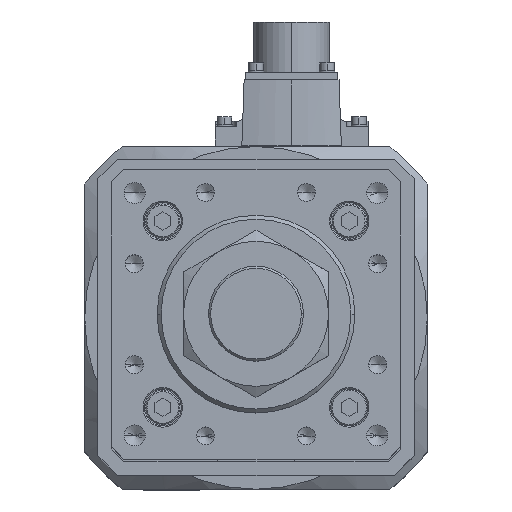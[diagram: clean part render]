
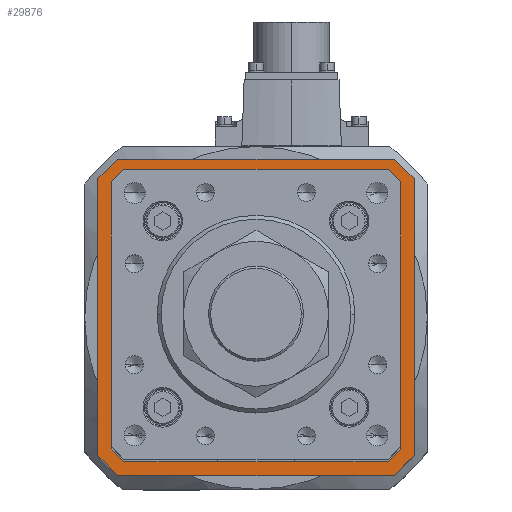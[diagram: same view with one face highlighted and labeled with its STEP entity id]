
A CAD part, top view. The second image highlights one B-rep face of the part: STEP entity #29876.
In plain terms, the highlighted planar face has unit normal (0, 0, 1).
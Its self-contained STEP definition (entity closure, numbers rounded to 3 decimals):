
#402 = LINE ( 'NONE', #24671, #37199 ) ;
#432 = CARTESIAN_POINT ( 'NONE',  ( 49.446, -53.646, -119. ) ) ;
#752 = EDGE_CURVE ( 'NONE', #24025, #31141, #7397, .T. ) ;
#809 = DIRECTION ( 'NONE',  ( -0.707, -0.707, 0. ) ) ;
#1158 = VECTOR ( 'NONE', #18522, 1000. ) ;
#1895 = CARTESIAN_POINT ( 'NONE',  ( 52.5, 60., -119. ) ) ;
#2481 = EDGE_CURVE ( 'NONE', #31141, #25167, #32281, .T. ) ;
#2551 = CARTESIAN_POINT ( 'NONE',  ( 49.593, 53.5, -119. ) ) ;
#2639 = EDGE_CURVE ( 'NONE', #33589, #20223, #8669, .T. ) ;
#3249 = EDGE_CURVE ( 'NONE', #13346, #20958, #15908, .T. ) ;
#3443 = EDGE_CURVE ( 'NONE', #20839, #8098, #12214, .T. ) ;
#3747 = CARTESIAN_POINT ( 'NONE',  ( -52.5, 60., -119. ) ) ;
#3892 = CARTESIAN_POINT ( 'NONE',  ( 53.5, 49.593, -119. ) ) ;
#4085 = ORIENTED_EDGE ( 'NONE', *, *, #21136, .F. ) ;
#4283 = EDGE_CURVE ( 'NONE', #36680, #20839, #402, .T. ) ;
#4780 = VECTOR ( 'NONE', #12912, 1000. ) ;
#4791 = ORIENTED_EDGE ( 'NONE', *, *, #2481, .F. ) ;
#5177 = CARTESIAN_POINT ( 'NONE',  ( 52.5, -60., -119. ) ) ;
#5240 = PLANE ( 'NONE',  #31977 ) ;
#5320 = CARTESIAN_POINT ( 'NONE',  ( 60., 52.5, -119. ) ) ;
#5611 = CARTESIAN_POINT ( 'NONE',  ( -52.5, 60., -119. ) ) ;
#6228 = CARTESIAN_POINT ( 'NONE',  ( 60., -52.5, -119. ) ) ;
#6403 = CARTESIAN_POINT ( 'NONE',  ( -53.646, -49.446, -119. ) ) ;
#6695 = ORIENTED_EDGE ( 'NONE', *, *, #752, .F. ) ;
#6730 = ORIENTED_EDGE ( 'NONE', *, *, #8951, .F. ) ;
#6912 = DIRECTION ( 'NONE',  ( -0.707, 0.707, 0. ) ) ;
#7117 = DIRECTION ( 'NONE',  ( 1., 0., 0. ) ) ;
#7397 = LINE ( 'NONE', #1895, #18828 ) ;
#7402 = LINE ( 'NONE', #3747, #12427 ) ;
#7476 = CARTESIAN_POINT ( 'NONE',  ( 52.5, 60., -119. ) ) ;
#7729 = CARTESIAN_POINT ( 'NONE',  ( -52.5, -60., -119. ) ) ;
#7738 = VECTOR ( 'NONE', #21157, 1000. ) ;
#7820 = CARTESIAN_POINT ( 'NONE',  ( -49.8, -53.5, -119. ) ) ;
#7886 = EDGE_CURVE ( 'NONE', #8098, #14402, #14810, .T. ) ;
#7902 = CARTESIAN_POINT ( 'NONE',  ( 60., 52.5, -119. ) ) ;
#7927 = CARTESIAN_POINT ( 'NONE',  ( 49.8, 53.5, -119. ) ) ;
#8074 = CARTESIAN_POINT ( 'NONE',  ( 0., 0., -119. ) ) ;
#8098 = VERTEX_POINT ( 'NONE', #2551 ) ;
#8228 = ORIENTED_EDGE ( 'NONE', *, *, #19949, .F. ) ;
#8669 = LINE ( 'NONE', #6228, #7738 ) ;
#8951 = EDGE_CURVE ( 'NONE', #34619, #24025, #7402, .T. ) ;
#9476 = VECTOR ( 'NONE', #28255, 1000. ) ;
#10619 = CARTESIAN_POINT ( 'NONE',  ( -53.5, 49.593, -119. ) ) ;
#10973 = ORIENTED_EDGE ( 'NONE', *, *, #3249, .T. ) ;
#11263 = CARTESIAN_POINT ( 'NONE',  ( -60., -52.5, -119. ) ) ;
#11430 = CARTESIAN_POINT ( 'NONE',  ( 60., 52.5, -119. ) ) ;
#12214 = LINE ( 'NONE', #7927, #9476 ) ;
#12427 = VECTOR ( 'NONE', #35516, 1000. ) ;
#12518 = VECTOR ( 'NONE', #809, 1000. ) ;
#12912 = DIRECTION ( 'NONE',  ( 0., 1., 0. ) ) ;
#13346 = VERTEX_POINT ( 'NONE', #31182 ) ;
#13430 = VECTOR ( 'NONE', #20535, 1000. ) ;
#13555 = DIRECTION ( 'NONE',  ( -1., 0., 0. ) ) ;
#13995 = LINE ( 'NONE', #7902, #34408 ) ;
#14019 = DIRECTION ( 'NONE',  ( 0., -1., 0. ) ) ;
#14402 = VERTEX_POINT ( 'NONE', #3892 ) ;
#14810 = LINE ( 'NONE', #35868, #1158 ) ;
#15908 = LINE ( 'NONE', #6403, #29493 ) ;
#16151 = ORIENTED_EDGE ( 'NONE', *, *, #7886, .T. ) ;
#16926 = EDGE_CURVE ( 'NONE', #20958, #36680, #27992, .T. ) ;
#17191 = EDGE_CURVE ( 'NONE', #25683, #34619, #20738, .T. ) ;
#17201 = VERTEX_POINT ( 'NONE', #23941 ) ;
#17257 = EDGE_CURVE ( 'NONE', #26932, #17201, #27956, .T. ) ;
#17733 = CARTESIAN_POINT ( 'NONE',  ( -60., 52.5, -119. ) ) ;
#18431 = DIRECTION ( 'NONE',  ( 0.707, -0.707, 0. ) ) ;
#18522 = DIRECTION ( 'NONE',  ( 0.707, -0.707, 0. ) ) ;
#18828 = VECTOR ( 'NONE', #7117, 1000. ) ;
#19024 = CARTESIAN_POINT ( 'NONE',  ( 53.5, -49.8, -119. ) ) ;
#19949 = EDGE_CURVE ( 'NONE', #20223, #25280, #28599, .T. ) ;
#20169 = LINE ( 'NONE', #7820, #31944 ) ;
#20223 = VERTEX_POINT ( 'NONE', #20877 ) ;
#20535 = DIRECTION ( 'NONE',  ( 0., 1., 0. ) ) ;
#20655 = CARTESIAN_POINT ( 'NONE',  ( 60., -52.5, -119. ) ) ;
#20738 = LINE ( 'NONE', #17733, #13430 ) ;
#20839 = VERTEX_POINT ( 'NONE', #29778 ) ;
#20877 = CARTESIAN_POINT ( 'NONE',  ( 52.5, -60., -119. ) ) ;
#20958 = VERTEX_POINT ( 'NONE', #30907 ) ;
#21136 = EDGE_CURVE ( 'NONE', #25167, #33589, #13995, .T. ) ;
#21157 = DIRECTION ( 'NONE',  ( -0.707, -0.707, 0. ) ) ;
#21160 = EDGE_CURVE ( 'NONE', #25280, #25683, #34867, .T. ) ;
#21622 = LINE ( 'NONE', #19024, #28428 ) ;
#22294 = CARTESIAN_POINT ( 'NONE',  ( 53.5, -49.593, -119. ) ) ;
#22527 = CARTESIAN_POINT ( 'NONE',  ( -52.5, -60., -119. ) ) ;
#22557 = EDGE_CURVE ( 'NONE', #14402, #26932, #21622, .T. ) ;
#22696 = ORIENTED_EDGE ( 'NONE', *, *, #29773, .T. ) ;
#22814 = ORIENTED_EDGE ( 'NONE', *, *, #21160, .F. ) ;
#23010 = ORIENTED_EDGE ( 'NONE', *, *, #2639, .F. ) ;
#23591 = ORIENTED_EDGE ( 'NONE', *, *, #17257, .T. ) ;
#23941 = CARTESIAN_POINT ( 'NONE',  ( 49.593, -53.5, -119. ) ) ;
#24025 = VERTEX_POINT ( 'NONE', #5611 ) ;
#24123 = ORIENTED_EDGE ( 'NONE', *, *, #17191, .F. ) ;
#24671 = CARTESIAN_POINT ( 'NONE',  ( -49.446, 53.646, -119. ) ) ;
#25023 = ORIENTED_EDGE ( 'NONE', *, *, #16926, .T. ) ;
#25167 = VERTEX_POINT ( 'NONE', #11430 ) ;
#25280 = VERTEX_POINT ( 'NONE', #7729 ) ;
#25683 = VERTEX_POINT ( 'NONE', #11263 ) ;
#26932 = VERTEX_POINT ( 'NONE', #22294 ) ;
#27177 = VECTOR ( 'NONE', #31911, 1000. ) ;
#27366 = DIRECTION ( 'NONE',  ( 0., -1., 0. ) ) ;
#27378 = CARTESIAN_POINT ( 'NONE',  ( -53.5, 49.8, -119. ) ) ;
#27956 = LINE ( 'NONE', #432, #12518 ) ;
#27992 = LINE ( 'NONE', #27378, #4780 ) ;
#28255 = DIRECTION ( 'NONE',  ( 1., 0., 0. ) ) ;
#28428 = VECTOR ( 'NONE', #27366, 1000. ) ;
#28596 = DIRECTION ( 'NONE',  ( -1., 0., 0. ) ) ;
#28599 = LINE ( 'NONE', #5177, #33190 ) ;
#29057 = ORIENTED_EDGE ( 'NONE', *, *, #22557, .T. ) ;
#29493 = VECTOR ( 'NONE', #6912, 1000. ) ;
#29638 = FACE_BOUND ( 'NONE', #33756, .T. ) ;
#29773 = EDGE_CURVE ( 'NONE', #17201, #13346, #20169, .T. ) ;
#29778 = CARTESIAN_POINT ( 'NONE',  ( -49.593, 53.5, -119. ) ) ;
#29876 = ADVANCED_FACE ( 'NONE', ( #29638, #33285 ), #5240, .T. ) ;
#29988 = DIRECTION ( 'NONE',  ( 0.707, 0.707, 0. ) ) ;
#30907 = CARTESIAN_POINT ( 'NONE',  ( -53.5, -49.593, -119. ) ) ;
#31141 = VERTEX_POINT ( 'NONE', #7476 ) ;
#31182 = CARTESIAN_POINT ( 'NONE',  ( -49.593, -53.5, -119. ) ) ;
#31712 = DIRECTION ( 'NONE',  ( 1., 0., 0. ) ) ;
#31911 = DIRECTION ( 'NONE',  ( -0.707, 0.707, 0. ) ) ;
#31944 = VECTOR ( 'NONE', #13555, 1000. ) ;
#31977 = AXIS2_PLACEMENT_3D ( 'NONE', #8074, #37404, #31712 ) ;
#32281 = LINE ( 'NONE', #5320, #34076 ) ;
#32841 = ORIENTED_EDGE ( 'NONE', *, *, #4283, .T. ) ;
#33190 = VECTOR ( 'NONE', #28596, 1000. ) ;
#33285 = FACE_OUTER_BOUND ( 'NONE', #36532, .T. ) ;
#33589 = VERTEX_POINT ( 'NONE', #20655 ) ;
#33756 = EDGE_LOOP ( 'NONE', ( #34237, #16151, #29057, #23591, #22696, #10973, #25023, #32841 ) ) ;
#34076 = VECTOR ( 'NONE', #18431, 1000. ) ;
#34237 = ORIENTED_EDGE ( 'NONE', *, *, #3443, .T. ) ;
#34408 = VECTOR ( 'NONE', #14019, 1000. ) ;
#34619 = VERTEX_POINT ( 'NONE', #35309 ) ;
#34867 = LINE ( 'NONE', #22527, #27177 ) ;
#35309 = CARTESIAN_POINT ( 'NONE',  ( -60., 52.5, -119. ) ) ;
#35516 = DIRECTION ( 'NONE',  ( 0.707, 0.707, 0. ) ) ;
#35868 = CARTESIAN_POINT ( 'NONE',  ( 53.646, 49.446, -119. ) ) ;
#36532 = EDGE_LOOP ( 'NONE', ( #6695, #6730, #24123, #22814, #8228, #23010, #4085, #4791 ) ) ;
#36680 = VERTEX_POINT ( 'NONE', #10619 ) ;
#37199 = VECTOR ( 'NONE', #29988, 1000. ) ;
#37404 = DIRECTION ( 'NONE',  ( 0., 0., 1. ) ) ;
